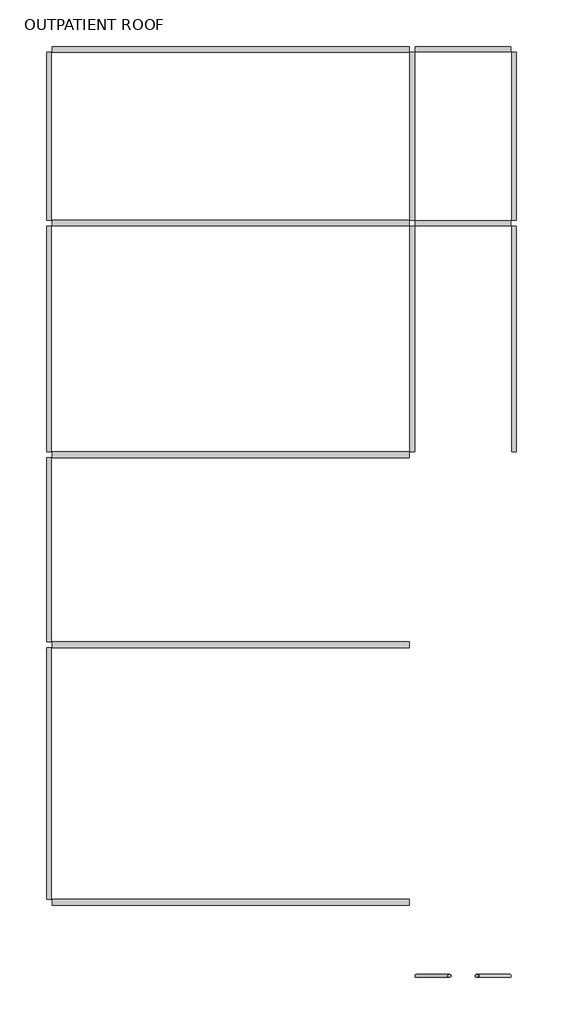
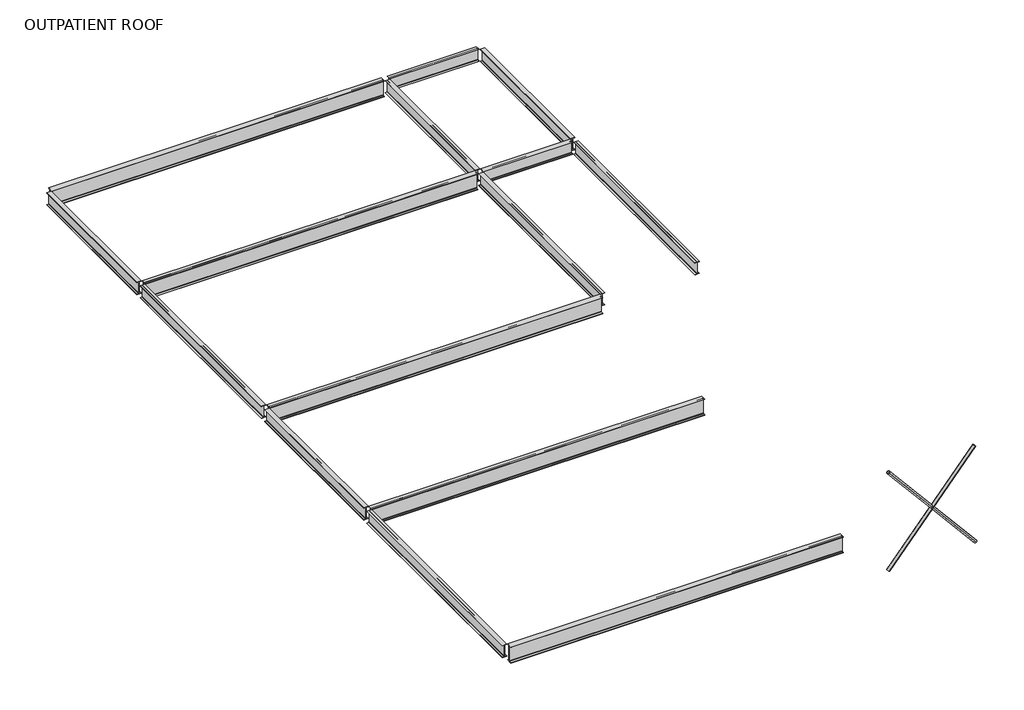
# One storey: 17 beams.
"""IFC4 building model written with IfcOpenShell, lengths in millimetres."""

from ifc_helpers import new_model, si_unit, origin, place, context, project, spatial, transform, mapped, element, save
from components import chs_circular_hollow_sections_chs88_9x5_9497e3e4, chs_circular_hollow_sections_chs88_9x5_fd41268f, ukb406x140x39_7e56880b, ukb406x140x39_9a05f4e8, ukb406x140x39_85102be7, ukb406x140x39_573959fe, ukb406x140x39_028f263f, ukb533x165x66_f7286a11

model = new_model("IFC4")

# Units and contexts
model_context = context("Model", 3, world=origin())
ifc_project = project(units=[si_unit("LENGTHUNIT", "METRE", prefix="MILLI")], contexts=[model_context])

# Site, building, storey
site = spatial("IfcSite", under=ifc_project)
building = spatial("IfcBuilding", under=site)
storey = spatial("IfcBuildingStorey", under=building, Name="OUTPATIENT ROOF", Elevation=4200.0)

# Beams
placement = place(None, origin())
chs_circular_hollow_sections_chs88_9x5_shape = chs_circular_hollow_sections_chs88_9x5_9497e3e4(model_context)
element("IfcBeam", 1, ObjectType="CHS-Circular Hollow Sections : CHS88.9x5", at=placement, inside=storey, context=model_context, shape_type="MappedRepresentation", body=[
    mapped(chs_circular_hollow_sections_chs88_9x5_shape, transform((3758.6991967, -18879.9552001, 5921.3759461), x_axis=(0.643960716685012, 0.0, -0.7650585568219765), y_axis=(0.0, 1.0, 0.0), z_axis=(0.7650585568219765, 0.0, 0.6439607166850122))),
])
chs_circular_hollow_sections_chs88_9x5_2_shape = chs_circular_hollow_sections_chs88_9x5_fd41268f(model_context)
element("IfcBeam", 2, ObjectType="CHS-Circular Hollow Sections : CHS88.9x5", at=placement, inside=storey, context=model_context, shape_type="MappedRepresentation", body=[
    mapped(chs_circular_hollow_sections_chs88_9x5_2_shape, transform((3826.7129024, -18879.9552001, 5921.3759461), x_axis=(-0.643960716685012, 0.0, -0.7650585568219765), y_axis=(0.0, -1.0, 0.0), z_axis=(-0.7650585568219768, 0.0, 0.6439607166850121))),
])
ukb406x140x39_shape = ukb406x140x39_7e56880b(model_context)
element("IfcBeam", 3, ObjectType="UKB-UK Beams : UKB406x140x39", at=placement, inside=storey, context=model_context, shape_type="MappedRepresentation", body=[
    mapped(ukb406x140x39_shape, transform((5265.7060496, 5428.5447999, 4001.0), x_axis=(0.0, -1.0, 0.0), y_axis=(1.0, 0.0, 0.0), z_axis=(0.0, 0.0, 1.0))),
])
element("IfcBeam", 4, ObjectType="UKB-UK Beams : UKB406x140x39", at=placement, inside=storey, context=model_context, shape_type="MappedRepresentation", body=[
    mapped(ukb406x140x39_shape, transform((2319.7060496, 5428.5447999, 4001.0), x_axis=(0.0, -1.0, 0.0), y_axis=(1.0, 0.0, 0.0), z_axis=(0.0, 0.0, 1.0))),
])
element("IfcBeam", 5, ObjectType="UKB-UK Beams : UKB406x140x39", at=placement, inside=storey, context=model_context, shape_type="MappedRepresentation", body=[
    mapped(ukb406x140x39_shape, transform((-8196.2939504, 5428.5447999, 4001.0), x_axis=(0.0, -1.0, 0.0), y_axis=(1.0, 0.0, 0.0), z_axis=(0.0, 0.0, 1.0))),
])
ukb406x140x39_2_shape = ukb406x140x39_9a05f4e8(model_context)
element("IfcBeam", 6, ObjectType="UKB-UK Beams : UKB406x140x39", at=placement, inside=storey, context=model_context, shape_type="MappedRepresentation", body=[
    mapped(ukb406x140x39_2_shape, transform((5265.7060496, -438.9552001, 4001.0), x_axis=(0.0, -1.0, 0.0), y_axis=(1.0, 0.0, 0.0), z_axis=(0.0, 0.0, 1.0))),
])
element("IfcBeam", 7, ObjectType="UKB-UK Beams : UKB406x140x39", at=placement, inside=storey, context=model_context, shape_type="MappedRepresentation", body=[
    mapped(ukb406x140x39_2_shape, transform((2319.7060496, -438.9552001, 4001.0), x_axis=(0.0, -1.0, 0.0), y_axis=(1.0, 0.0, 0.0), z_axis=(0.0, 0.0, 1.0))),
])
element("IfcBeam", 8, ObjectType="UKB-UK Beams : UKB406x140x39", at=placement, inside=storey, context=model_context, shape_type="MappedRepresentation", body=[
    mapped(ukb406x140x39_2_shape, transform((-8196.2939504, -438.9552001, 4001.0), x_axis=(0.0, -1.0, 0.0), y_axis=(1.0, 0.0, 0.0), z_axis=(0.0, 0.0, 1.0))),
])
ukb406x140x39_3_shape = ukb406x140x39_85102be7(model_context)
element("IfcBeam", 9, ObjectType="UKB-UK Beams : UKB406x140x39", at=placement, inside=storey, context=model_context, shape_type="MappedRepresentation", body=[
    mapped(ukb406x140x39_3_shape, transform((-8196.2939504, -6541.4552001, 4001.0), x_axis=(0.0, -1.0, 0.0), y_axis=(1.0, 0.0, 0.0), z_axis=(0.0, 0.0, 1.0))),
])
ukb406x140x39_4_shape = ukb406x140x39_573959fe(model_context)
element("IfcBeam", 10, ObjectType="UKB-UK Beams : UKB406x140x39", at=placement, inside=storey, context=model_context, shape_type="MappedRepresentation", body=[
    mapped(ukb406x140x39_4_shape, transform((-8196.2939504, -13018.4552001, 4001.0), x_axis=(0.0, -1.0, 0.0), y_axis=(1.0, 0.0, 0.0), z_axis=(0.0, 0.0, 1.0))),
])
ukb406x140x39_5_shape = ukb406x140x39_028f263f(model_context)
element("IfcBeam", 11, ObjectType="UKB-UK Beams : UKB406x140x39", at=placement, inside=storey, context=model_context, shape_type="MappedRepresentation", body=[
    mapped(ukb406x140x39_5_shape, transform((3792.7060496, 7943.0447999, 4001.0), x_axis=(1.0, 0.0, 0.0), y_axis=(0.0, 1.0, 0.0), z_axis=(0.0, 0.0, 1.0))),
])
element("IfcBeam", 12, ObjectType="UKB-UK Beams : UKB406x140x39", at=placement, inside=storey, context=model_context, shape_type="MappedRepresentation", body=[
    mapped(ukb406x140x39_5_shape, transform((3792.7060496, 2914.0447999, 4001.0), x_axis=(1.0, 0.0, 0.0), y_axis=(0.0, 1.0, 0.0), z_axis=(0.0, 0.0, 1.0))),
])
ukb533x165x66_shape = ukb533x165x66_f7286a11(model_context)
element("IfcBeam", 13, ObjectType="UKB-UK Beams : UKB533x165x66", at=placement, inside=storey, context=model_context, shape_type="MappedRepresentation", body=[
    mapped(ukb533x165x66_shape, transform((-2938.2939504, 7943.0447999, 3937.65), x_axis=(1.0, 0.0, 0.0), y_axis=(0.0, 1.0, 0.0), z_axis=(0.0, 0.0, 1.0))),
])
element("IfcBeam", 14, ObjectType="UKB-UK Beams : UKB533x165x66", at=placement, inside=storey, context=model_context, shape_type="MappedRepresentation", body=[
    mapped(ukb533x165x66_shape, transform((-2938.2939504, 2914.0447999, 3937.65), x_axis=(1.0, 0.0, 0.0), y_axis=(0.0, 1.0, 0.0), z_axis=(0.0, 0.0, 1.0))),
])
element("IfcBeam", 15, ObjectType="UKB-UK Beams : UKB533x165x66", at=placement, inside=storey, context=model_context, shape_type="MappedRepresentation", body=[
    mapped(ukb533x165x66_shape, transform((-2938.2939504, -3791.9552001, 3937.65), x_axis=(1.0, 0.0, 0.0), y_axis=(0.0, 1.0, 0.0), z_axis=(0.0, 0.0, 1.0))),
])
element("IfcBeam", 16, ObjectType="UKB-UK Beams : UKB533x165x66", at=placement, inside=storey, context=model_context, shape_type="MappedRepresentation", body=[
    mapped(ukb533x165x66_shape, transform((-2938.2939504, -9290.9552001, 3937.65), x_axis=(1.0, 0.0, 0.0), y_axis=(0.0, 1.0, 0.0), z_axis=(0.0, 0.0, 1.0))),
])
element("IfcBeam", 17, ObjectType="UKB-UK Beams : UKB533x165x66", at=placement, inside=storey, context=model_context, shape_type="MappedRepresentation", body=[
    mapped(ukb533x165x66_shape, transform((-2938.2939504, -16745.9552001, 3937.65), x_axis=(1.0, 0.0, 0.0), y_axis=(0.0, 1.0, 0.0), z_axis=(0.0, 0.0, 1.0))),
])

save(model, "model.ifc")
